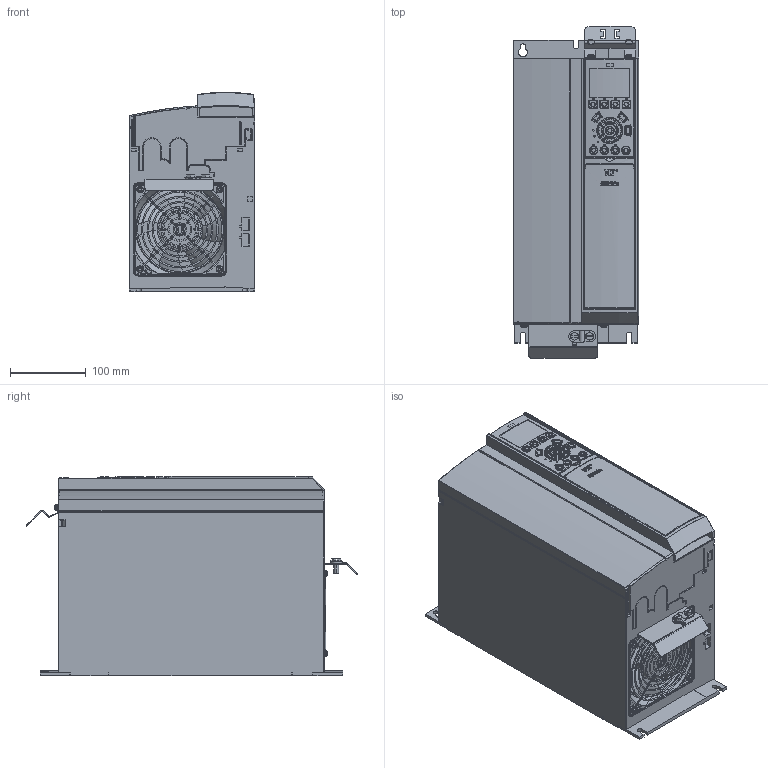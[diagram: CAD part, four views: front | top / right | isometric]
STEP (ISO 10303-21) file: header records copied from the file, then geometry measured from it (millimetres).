
FILE_DESCRIPTION((''),'2;1');
FILE_NAME('DANFOSS-FC200-B3-IP20-AB-103','2007-06-15T',('Naushad.pm'),('dan Drives A/S'),'PRO/ENGINEER BY PARAMETRIC TECHNOLOGY CORPORATION, 2006200','PRO/ENGINEER BY PARAMETRIC TECHNOLOGY CORPORATION, 2006200','');
FILE_SCHEMA(('CONFIG_CONTROL_DESIGN', 'GEOMETRIC_VALIDATION_PROPERTIES_MIM'));
Products named in the file (1): DANFOSS-FC200-B3-IP20-AB-103
Bounding box: 165 x 437.49 x 262.51 mm (x, y, z)
Volume: 14050103.4 mm3; surface area: 538725.2 mm2
Topology: 2 solids, 19 shells, 3635 faces, 8778 edges, 5283 vertices
Faces by surface type: cylinder 1289, plane 1060, bspline 521, torus 381, sphere 203, cone 91, extrusion 90
Entity records: 195391 total; most frequent: CARTESIAN_POINT 59645, ORIENTED_EDGE 17542, DIRECTION 15332, PRESENTATION_STYLE_ASSIGNMENT 11611, STYLED_ITEM 8799, CURVE_STYLE 8771, EDGE_CURVE 8771, AXIS2_PLACEMENT_3D 5716
